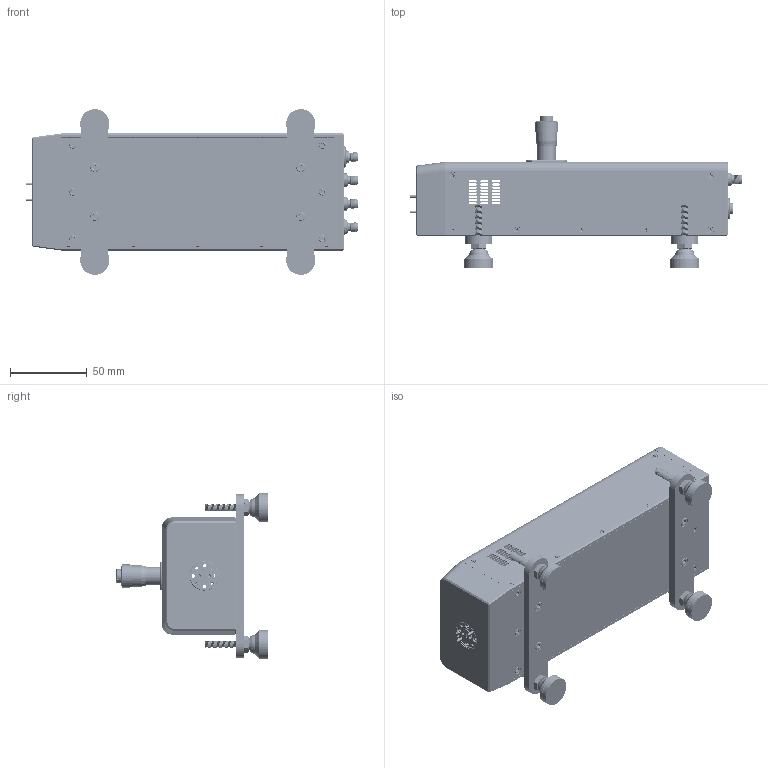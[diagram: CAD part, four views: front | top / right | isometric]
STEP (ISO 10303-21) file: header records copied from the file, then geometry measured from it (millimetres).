
FILE_DESCRIPTION (( 'STEP AP214' ), '1' );
FILE_NAME ('TO-SE-A-M-2.STEP', '2025-07-09T22:32:29', ( '' ), ( '' ), 'SwSTEP 2.0', 'SolidWorks 2021', '' );
FILE_SCHEMA (( 'AUTOMOTIVE_DESIGN' ));
Length unit declared in the file: inch
Products named in the file (1): TO-SE-A-M-2
Bounding box: 216.16 x 99.28 x 107.95 mm (x, y, z)
Volume: 237803.5 mm3; surface area: 161725.8 mm2
Topology: 111 solids, 111 shells, 5739 faces, 15284 edges, 9805 vertices
Faces by surface type: cylinder 3114, plane 1276, cone 876, bspline 449, sphere 16, torus 8
Entity records: 399747 total; most frequent: CARTESIAN_POINT 198889, ORIENTED_EDGE 30256, DIRECTION 21848, EDGE_CURVE 15128, VERTEX_POINT 9781, AXIS2_PLACEMENT_3D 8179, EDGE_LOOP 6257, LENGTH_MEASURE_WITH_UNIT 5811
